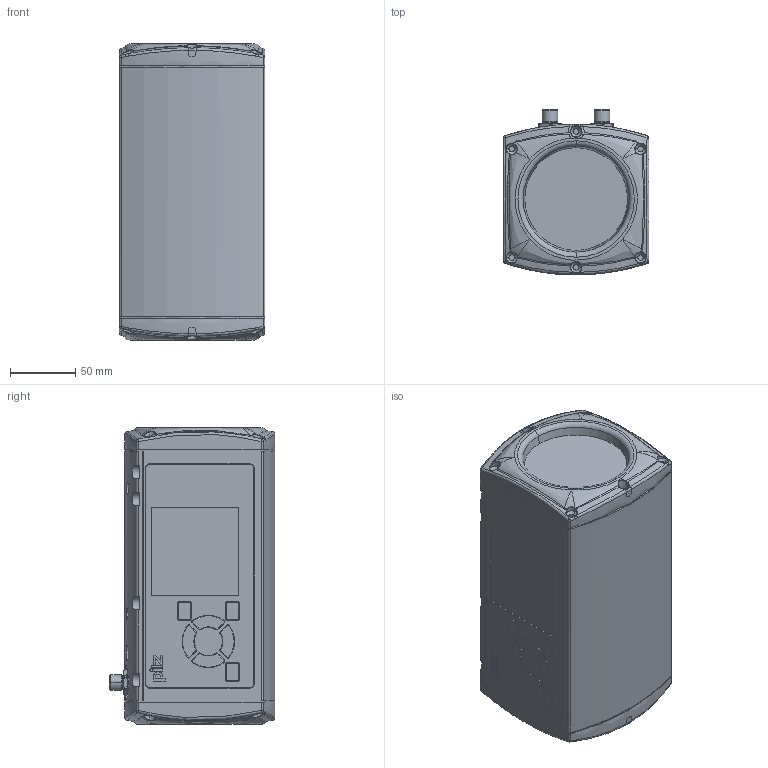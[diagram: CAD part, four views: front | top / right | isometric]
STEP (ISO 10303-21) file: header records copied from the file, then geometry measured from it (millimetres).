
FILE_DESCRIPTION((''),'2;1');
FILE_NAME('2007766','2010-08-24T',('veit'),(''),'PRO/ENGINEER BY PARAMETRIC TECHNOLOGY CORPORATION, 2009380','PRO/ENGINEER BY PARAMETRIC TECHNOLOGY CORPORATION, 2009380','');
FILE_SCHEMA(('AUTOMOTIVE_DESIGN_CC2 { 1 2 10303 214 -1 1 5 2 }'));
Length unit declared in the file: millimetre
Products named in the file (1): 2007766
Bounding box: 112.2 x 127.5 x 228 mm (x, y, z)
Volume: 2679493 mm3; surface area: 150533.3 mm2
Topology: 3 solids, 10 shells, 1041 faces, 2555 edges, 1580 vertices
Faces by surface type: cylinder 271, plane 247, bspline 230, cone 163, torus 110, extrusion 12, sphere 8
Entity records: 78104 total; most frequent: CARTESIAN_POINT 39444, ORIENTED_EDGE 5044, DIRECTION 4555, PRESENTATION_STYLE_ASSIGNMENT 3581, STYLED_ITEM 2541, CURVE_STYLE 2538, EDGE_CURVE 2522, AXIS2_PLACEMENT_3D 1862
